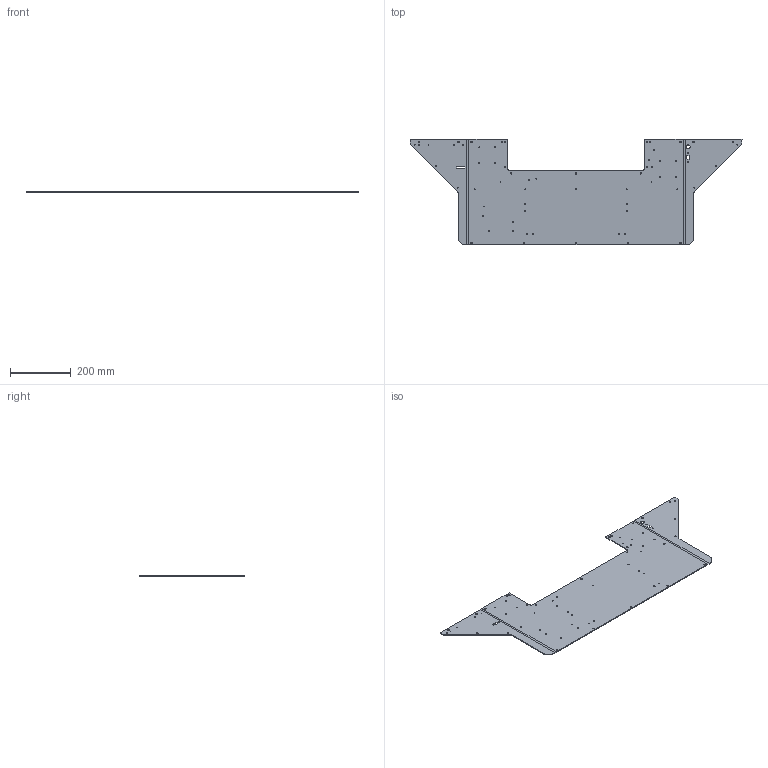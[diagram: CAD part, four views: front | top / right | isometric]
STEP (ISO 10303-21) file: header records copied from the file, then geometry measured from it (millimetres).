
FILE_DESCRIPTION(/* description */ (''),/* implementation_level */ '2;1');
FILE_NAME(/* name */ 'C:/Users/anton/Documents/Kerbal Space Program/Kerbal_Control_Panel/KCP2/CAD/ForManufacture/casing/Panel_BottomPlate_v96_FlatPattern.step',/* time_stamp */ '2020-11-15T22:23:04-08:00',/* author */ (''),/* organization */ (''),/* preprocessor_version */ 'ST-DEVELOPER v18.1',/* originating_system */ 'Autodesk Translation Framework v9.3.0.1241',/* authorisation */ '');
FILE_SCHEMA (('AUTOMOTIVE_DESIGN { 1 0 10303 214 3 1 1 }'));
Length unit declared in the file: millimetre
Products named in the file (1): Bottom Plate
Bounding box: 1092.17 x 346.63 x 3 mm (x, y, z)
Volume: 753590.7 mm3; surface area: 514081.6 mm2
Topology: 1 solids, 1 shells, 180 faces, 462 edges, 284 vertices
Faces by surface type: cylinder 84, cone 56, plane 40
Full cylindrical faces by diameter (mm): 2.529 x7, 3.264 x12, 3.4 x24, 3.5 x2, 4.496 x20, 13 x1
Entity records: 5871 total; most frequent: DIRECTION 1048, CARTESIAN_POINT 927, ORIENTED_EDGE 924, EDGE_CURVE 462, AXIS2_PLACEMENT_3D 405, EDGE_LOOP 316, VERTEX_POINT 284, LINE 238
